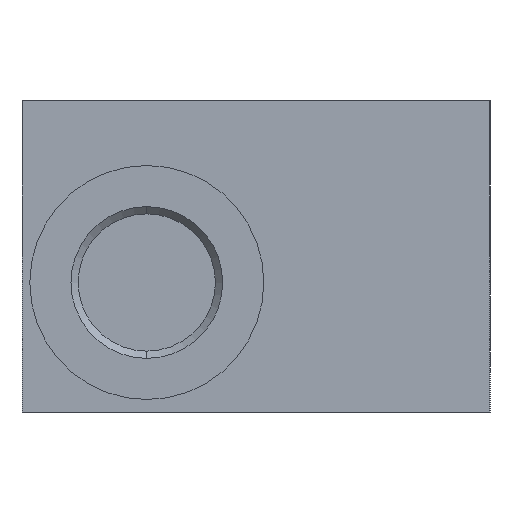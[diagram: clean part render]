
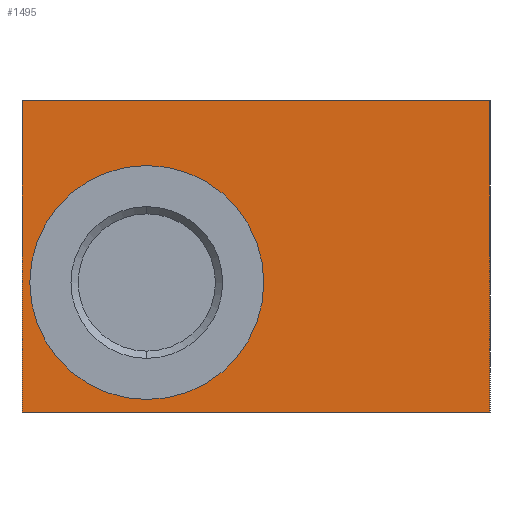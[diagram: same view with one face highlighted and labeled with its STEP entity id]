
A CAD part, left-side view. The second image highlights one B-rep face of the part: STEP entity #1495.
In plain terms, the highlighted planar face has unit normal (-1, 0, 0).
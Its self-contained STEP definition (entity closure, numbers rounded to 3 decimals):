
#22=DIRECTION('',(0.,-1.,0.));
#23=VECTOR('',#22,30.);
#24=CARTESIAN_POINT('',(-55.,15.,0.));
#25=LINE('91',#24,#23);
#71=DIRECTION('',(0.,-1.,0.));
#72=VECTOR('',#71,30.);
#73=CARTESIAN_POINT('',(-55.,15.,20.));
#74=LINE('100',#73,#72);
#227=DIRECTION('',(0.,0.,1.));
#228=VECTOR('',#227,20.);
#229=CARTESIAN_POINT('',(-55.,15.,0.));
#230=LINE('113',#229,#228);
#231=CARTESIAN_POINT('',(-55.,7.,8.3));
#232=DIRECTION('',(-1.,0.,0.));
#233=DIRECTION('',(0.,0.,1.));
#234=AXIS2_PLACEMENT_3D('',#231,#232,#233);
#236=CARTESIAN_POINT('',(-55.,7.,8.3));
#237=DIRECTION('',(-1.,0.,0.));
#238=DIRECTION('',(0.,0.,-1.));
#239=AXIS2_PLACEMENT_3D('',#236,#237,#238);
#259=DIRECTION('',(0.,0.,1.));
#260=VECTOR('',#259,20.);
#261=CARTESIAN_POINT('',(-55.,-15.,0.));
#262=LINE('115',#261,#260);
#1000=CARTESIAN_POINT('',(-55.,15.,0.));
#1001=CARTESIAN_POINT('',(-55.,-15.,0.));
#1002=VERTEX_POINT('',#1000);
#1003=VERTEX_POINT('',#1001);
#1008=CARTESIAN_POINT('',(-55.,15.,20.));
#1009=CARTESIAN_POINT('',(-55.,-15.,20.));
#1010=VERTEX_POINT('',#1008);
#1011=VERTEX_POINT('',#1009);
#1044=CARTESIAN_POINT('',(-55.,7.,15.8));
#1045=CARTESIAN_POINT('',(-55.,7.,0.8));
#1046=VERTEX_POINT('',#1044);
#1047=VERTEX_POINT('',#1045);
#1476=CARTESIAN_POINT('',(-55.,15.,0.));
#1477=DIRECTION('',(-1.,0.,0.));
#1478=DIRECTION('',(0.,-1.,0.));
#1479=AXIS2_PLACEMENT_3D('',#1476,#1477,#1478);
#1480=PLANE('112',#1479);
#1481=ORIENTED_EDGE('91',*,*,#1289,.F.);
#1483=ORIENTED_EDGE('113',*,*,#1482,.T.);
#1484=ORIENTED_EDGE('100',*,*,#1382,.T.);
#1486=ORIENTED_EDGE('115',*,*,#1485,.F.);
#1487=EDGE_LOOP('112',(#1481,#1483,#1484,#1486));
#1488=FACE_OUTER_BOUND('112',#1487,.F.);
#1490=ORIENTED_EDGE('3801',*,*,#1489,.T.);
#1492=ORIENTED_EDGE('3802',*,*,#1491,.T.);
#1493=EDGE_LOOP('112',(#1490,#1492));
#1494=FACE_BOUND('112',#1493,.F.);
#1495=ADVANCED_FACE('112',(#1488,#1494),#1480,.T.);
#235=CIRCLE('3801',#234,7.5);
#240=CIRCLE('3802',#239,7.5);
#1289=EDGE_CURVE('91',#1002,#1003,#25,.T.);
#1382=EDGE_CURVE('100',#1010,#1011,#74,.T.);
#1482=EDGE_CURVE('113',#1002,#1010,#230,.T.);
#1485=EDGE_CURVE('115',#1003,#1011,#262,.T.);
#1489=EDGE_CURVE('3801',#1046,#1047,#235,.T.);
#1491=EDGE_CURVE('3802',#1047,#1046,#240,.T.);
